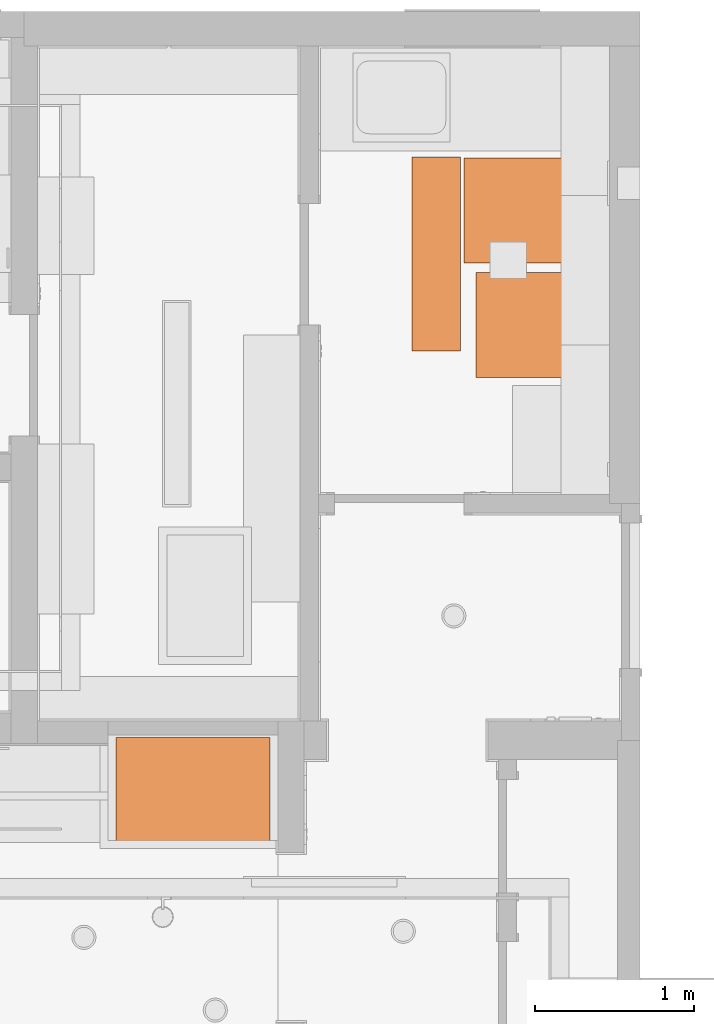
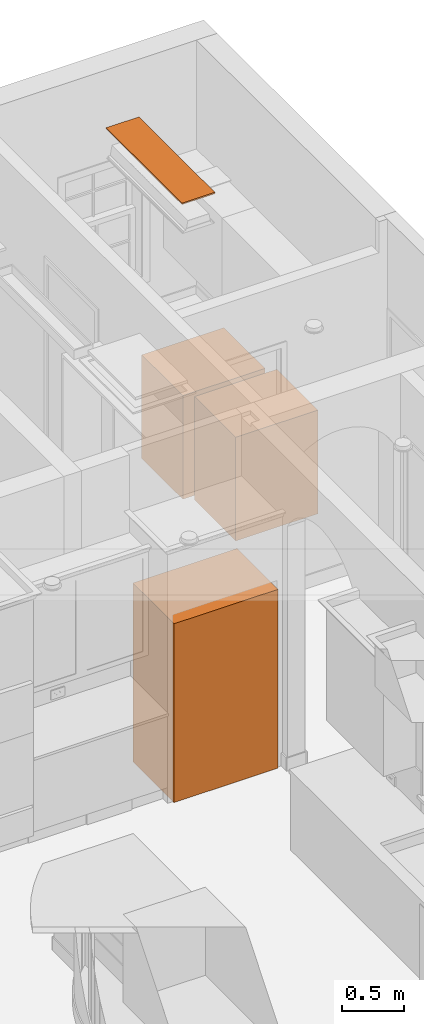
# One storey, part 62 of 81: 4 proxies.
"""IFC2X3 building model written with IfcOpenShell, lengths in feet."""

from ifc_helpers import new_model, entity, si_unit, converted_unit, derived_unit, direction, frame, origin, origin_2d_with_axis, place, context, subcontext, project, spatial, rectangle, extrude, source, transform, mapped, material, type_object, type_shapes, element, save


model = new_model("IFC2X3")

# Units and contexts
model_context = context("Model", 3, precision=0.0001, world=origin(), true_north=direction((6.12303176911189e-17, 1.0)))
body_context = subcontext(model_context, "Body", "Model", "MODEL_VIEW")
ifc_project = project(units=[converted_unit("LENGTHUNIT", "FOOT", entity("IfcRatioMeasure", 0.3048), si_unit("LENGTHUNIT", "METRE"), dimensions=[1, 0, 0, 0, 0, 0, 0]), converted_unit("AREAUNIT", "SQUARE FOOT", entity("IfcRatioMeasure", 0.09290304), si_unit("AREAUNIT", "SQUARE_METRE"), dimensions=[2, 0, 0, 0, 0, 0, 0]), converted_unit("VOLUMEUNIT", "CUBIC FOOT", entity("IfcRatioMeasure", 0.028316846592), si_unit("VOLUMEUNIT", "CUBIC_METRE"), dimensions=[3, 0, 0, 0, 0, 0, 0]), converted_unit("PLANEANGLEUNIT", "DEGREE", entity("IfcRatioMeasure", 0.0174532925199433), si_unit("PLANEANGLEUNIT", "RADIAN"), dimensions=[0, 0, 0, 0, 0, 0, 0]), si_unit("MASSUNIT", "GRAM", prefix="KILO"), derived_unit("MASSDENSITYUNIT", [(si_unit("MASSUNIT", "GRAM", prefix="KILO"), 1), (si_unit("LENGTHUNIT", "METRE"), -3)]), derived_unit("MOMENTOFINERTIAUNIT", [(si_unit("LENGTHUNIT", "METRE"), 4)]), si_unit("TIMEUNIT", "SECOND"), si_unit("FREQUENCYUNIT", "HERTZ"), si_unit("THERMODYNAMICTEMPERATUREUNIT", "DEGREE_CELSIUS"), derived_unit("THERMALTRANSMITTANCEUNIT", [(si_unit("MASSUNIT", "GRAM", prefix="KILO"), 1), (si_unit("THERMODYNAMICTEMPERATUREUNIT", "KELVIN"), -1), (si_unit("TIMEUNIT", "SECOND"), -3)]), derived_unit("VOLUMETRICFLOWRATEUNIT", [(si_unit("LENGTHUNIT", "METRE"), 3), (si_unit("TIMEUNIT", "SECOND"), -1)]), si_unit("ELECTRICCURRENTUNIT", "AMPERE"), si_unit("ELECTRICVOLTAGEUNIT", "VOLT"), si_unit("POWERUNIT", "WATT"), si_unit("FORCEUNIT", "NEWTON"), si_unit("ILLUMINANCEUNIT", "LUX"), si_unit("LUMINOUSFLUXUNIT", "LUMEN"), si_unit("LUMINOUSINTENSITYUNIT", "CANDELA"), derived_unit("USERDEFINED", [(si_unit("MASSUNIT", "GRAM", prefix="KILO"), -1), (si_unit("LENGTHUNIT", "METRE"), -2), (si_unit("TIMEUNIT", "SECOND"), 3), (si_unit("LUMINOUSFLUXUNIT", "LUMEN"), 1)]), derived_unit("LINEARVELOCITYUNIT", [(si_unit("LENGTHUNIT", "METRE"), 1), (si_unit("TIMEUNIT", "SECOND"), -1)]), si_unit("PRESSUREUNIT", "PASCAL"), derived_unit("USERDEFINED", [(si_unit("LENGTHUNIT", "METRE"), -2), (si_unit("MASSUNIT", "GRAM", prefix="KILO"), 1), (si_unit("TIMEUNIT", "SECOND"), -2)]), derived_unit("LINEARFORCEUNIT", [(si_unit("MASSUNIT", "GRAM", prefix="KILO"), 1), (si_unit("LENGTHUNIT", "METRE"), 1), (si_unit("TIMEUNIT", "SECOND"), -2), (si_unit("LENGTHUNIT", "METRE"), -1)]), derived_unit("PLANARFORCEUNIT", [(si_unit("MASSUNIT", "GRAM", prefix="KILO"), 1), (si_unit("LENGTHUNIT", "METRE"), 1), (si_unit("TIMEUNIT", "SECOND"), -2), (si_unit("LENGTHUNIT", "METRE"), -2)])], contexts=[model_context])

# Site, building, storey
site_placement = place(None, origin())
site = spatial("IfcSite", under=ifc_project, at=site_placement, Name="Default", CompositionType="ELEMENT")
building_placement = place(site_placement, origin())
building = spatial("IfcBuilding", under=site, at=building_placement, CompositionType="ELEMENT")
storey_placement = place(building_placement, origin())
storey = spatial("IfcBuildingStorey", under=building, at=storey_placement, Name="First floor", CompositionType="ELEMENT", Elevation=0.0)

# Proxies
ifc_material = material(Name="Default New Material")
building_element_proxy_type_1 = type_object("IfcBuildingElementProxyType", Name="Specialty Equipment_2:Specialty Equipment_2", PredefinedType="NOTDEFINED", material=ifc_material)
shared_shape_1 = source(origin(), body_context, "Body", "SweptSolid", [
    extrude(rectangle(XDim=3.16666666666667, YDim=2.16666666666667, at=origin_2d_with_axis()), frame((0.0, -1.08333333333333, 0.0), z_axis=(0.0, 0.0, 1.0), x_axis=(-1.0, 0.0, 0.0)), (0.0, 0.0, 1.0), 5.75),
])
type_shapes(building_element_proxy_type_1, [shared_shape_1])
proxy_1_placement = place(storey_placement, frame((11.1666666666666, 33.0725715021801, 10.6666666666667)))
element("IfcBuildingElementProxy", 1, at=proxy_1_placement, inside=storey, type_object=building_element_proxy_type_1, material=ifc_material, Name="Specialty Equipment_2:Specialty Equipment_2", ObjectType="Specialty Equipment_2:Specialty Equipment_2", context=body_context, shape_type="MappedRepresentation", body=[
    mapped(shared_shape_1, transform((0.0, 0.0, 0.0), scale=1.0)),
])
building_element_proxy_type_2 = type_object("IfcBuildingElementProxyType", Name="Specialty Equipment_1:Specialty Equipment_1", PredefinedType="NOTDEFINED", material=ifc_material)
shared_shape_2 = source(origin(), body_context, "Body", "SweptSolid", [
    extrude(rectangle(XDim=2.16666666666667, YDim=2.5, at=origin_2d_with_axis()), frame((0.0, -1.25, 0.0), z_axis=(0.0, 0.0, 1.0), x_axis=(-1.0, 0.0, 0.0)), (0.0, 0.0, 1.0), 3.33333333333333),
])
type_shapes(building_element_proxy_type_2, [shared_shape_2])
for number, where, z_axis, x_axis, name in (
    (2, (16.75, 43.9371548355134, 10.6666666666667), (0.0, 0.0, 1.0), (0.0, 1.0, 0.0), "Specialty Equipment_1:Specialty Equipment_1"),
    (3, (17.0, 41.5829881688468, 10.6666666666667), (0.0, 0.0, 1.0), (0.0, 1.0, 0.0), "Specialty Equipment_1:Specialty Equipment_1"),
):
    element("IfcBuildingElementProxy", number, at=place(storey_placement, frame(where, z_axis=z_axis, x_axis=x_axis)), inside=storey, type_object=building_element_proxy_type_2, material=ifc_material, Name=name, ObjectType="Specialty Equipment_1:Specialty Equipment_1", context=body_context, shape_type="MappedRepresentation", body=[
        mapped(shared_shape_2, transform((0.0, 0.0, 0.0), scale=1.0)),
    ])
building_element_proxy_type_3 = type_object("IfcBuildingElementProxyType", Name="Generic Models 64:Generic Models 64", PredefinedType="NOTDEFINED", material=ifc_material)
shared_shape_3 = source(origin(), body_context, "Body", "SweptSolid", [
    extrude(rectangle(XDim=1.0, YDim=3.99999999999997, at=origin_2d_with_axis()), frame((16.1766475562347, 43.0387229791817, 21.625), z_axis=(0.0, 0.0, 1.0), x_axis=(-1.0, 0.0, 0.0)), (0.0, 0.0, 1.0), 0.0416666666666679),
])
type_shapes(building_element_proxy_type_3, [shared_shape_3])
proxy_2_placement = place(storey_placement, origin())
element("IfcBuildingElementProxy", 4, at=proxy_2_placement, inside=storey, type_object=building_element_proxy_type_3, material=ifc_material, Name="Generic Models 64:Generic Models 64", ObjectType="Generic Models 64:Generic Models 64", context=body_context, shape_type="MappedRepresentation", body=[
    mapped(shared_shape_3, transform((0.0, 0.0, 0.0), scale=1.0)),
])

save(model, "model.ifc")
